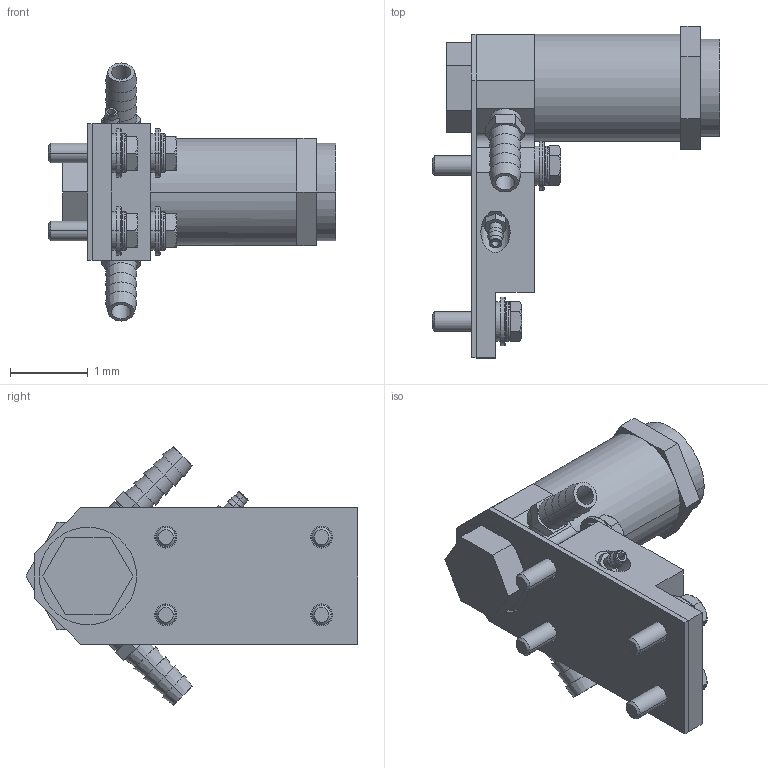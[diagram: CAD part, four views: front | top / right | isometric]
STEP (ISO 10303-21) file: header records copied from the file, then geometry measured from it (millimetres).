
FILE_DESCRIPTION((''),'2;1');
FILE_NAME('UM3.stp','2017-11-07T11:34:57',(''),(''),'Mechanical Desktop 2011','Mechanical Desktop 2011',', , ');
FILE_SCHEMA(('CONFIG_CONTROL_DESIGN'));
Length unit declared in the file: millimetre
Products named in the file (1): Product
Bounding box: 3.69 x 4.26 x 3.31 mm (x, y, z)
Volume: 8.7 mm3; surface area: 80.3 mm2
Topology: 26 solids, 26 shells, 363 faces, 787 edges, 506 vertices
Faces by surface type: plane 150, cylinder 105, cone 60, bspline 30, torus 18
Full cylindrical faces by diameter (mm): 0.375 x1
Entity records: 10359 total; most frequent: CARTESIAN_POINT 2211, DIRECTION 1752, ORIENTED_EDGE 1574, EDGE_CURVE 787, AXIS2_PLACEMENT_3D 695, VERTEX_POINT 506, EDGE_LOOP 437, FACE_OUTER_BOUND 363
